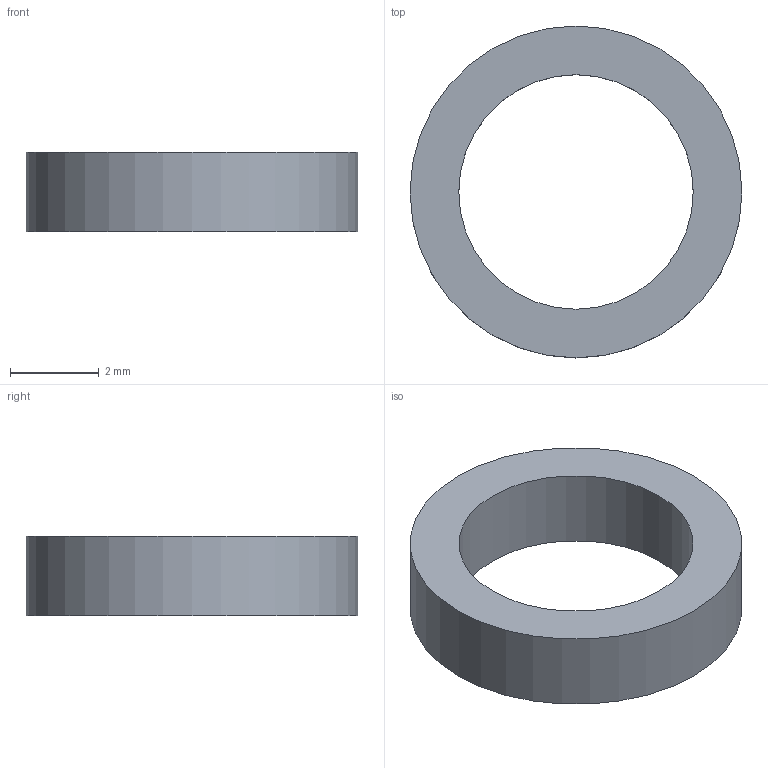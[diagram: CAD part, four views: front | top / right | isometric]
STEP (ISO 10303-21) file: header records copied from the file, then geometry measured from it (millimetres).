
FILE_DESCRIPTION(('Open CASCADE Model'),'2;1');
FILE_NAME('Open CASCADE Shape Model','2026-10-21T12:04:46',('Author'),( 'Open CASCADE'),'Open CASCADE STEP processor 7.9','Open CASCADE 7.9' ,'Unknown');
FILE_SCHEMA(('AUTOMOTIVE_DESIGN { 1 0 10303 214 1 1 1 1 }'));
Length unit declared in the file: millimetre
Products named in the file (1): Open CASCADE STEP translator 7.9 9
Bounding box: 7.5 x 7.5 x 1.8 mm (x, y, z)
Volume: 39.8 mm3; surface area: 116.6 mm2
Topology: 1 solids, 1 shells, 4 faces, 6 edges, 4 vertices
Faces by surface type: cylinder 2, plane 2
Full cylindrical faces by diameter (mm): 5.3 x1, 7.5 x1
Entity records: 192 total; most frequent: CARTESIAN_POINT 39, DIRECTION 30, ORIENTED_EDGE 12, PCURVE 12, DEFINITIONAL_REPRESENTATION 12, LINE 10, VECTOR 10, AXIS2_PLACEMENT_3D 9
